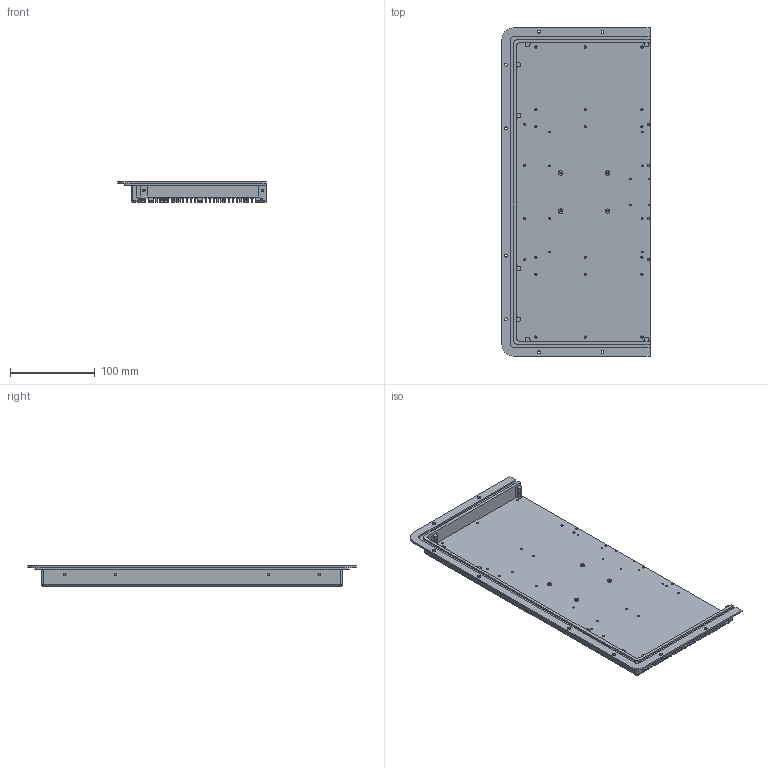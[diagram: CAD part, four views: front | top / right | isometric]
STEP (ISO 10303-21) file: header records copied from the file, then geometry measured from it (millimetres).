
FILE_DESCRIPTION (( 'STEP AP214' ), '1' );
FILE_NAME ('反制盾-盒体1.STEP', '2026-09-29T07:29:46', ( '微软用户' ), ( '微软中国' ), 'SwSTEP 2.0', 'SolidWorks 2016', '' );
FILE_SCHEMA (( 'AUTOMOTIVE_DESIGN' ));
Length unit declared in the file: millimetre
Products named in the file (1): 毀秶嗎-碟极1
Bounding box: 174.5 x 387 x 23.8 mm (x, y, z)
Volume: 233252.2 mm3; surface area: 271737.7 mm2
Topology: 1 solids, 1 shells, 1049 faces, 2727 edges, 1754 vertices
Faces by surface type: plane 464, cylinder 455, cone 128, sphere 2
Entity records: 32851 total; most frequent: DIRECTION 5807, CARTESIAN_POINT 5509, ORIENTED_EDGE 5410, EDGE_CURVE 2705, AXIS2_PLACEMENT_3D 2052, VERTEX_POINT 1754, LINE 1703, VECTOR 1703
